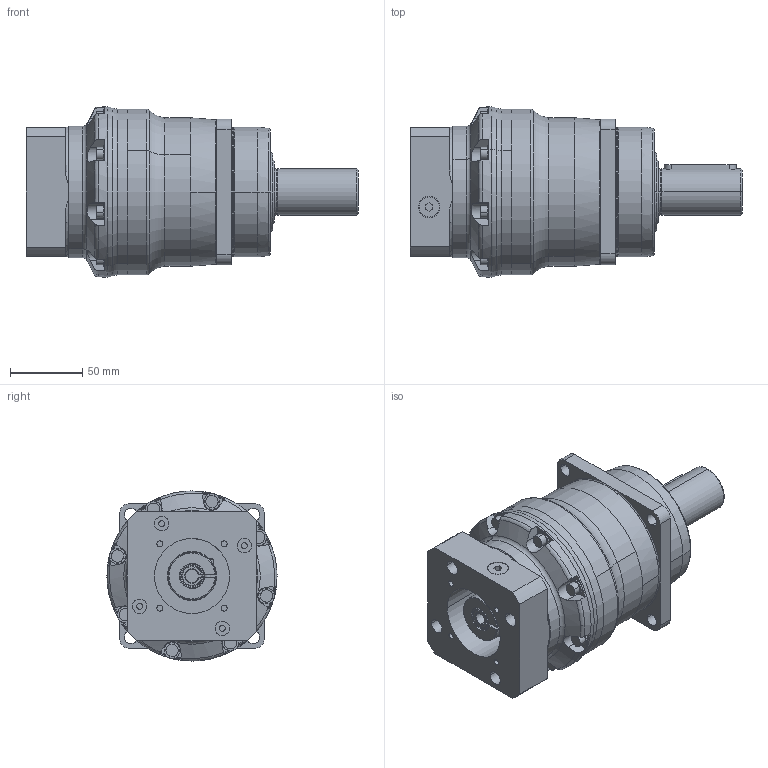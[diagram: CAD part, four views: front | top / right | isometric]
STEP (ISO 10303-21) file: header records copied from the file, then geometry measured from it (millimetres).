
FILE_DESCRIPTION(('STEP AP214'),'1');
FILE_NAME('20170313_133629054.stp','2017-03-13T12:36:30',(''),(''),'XStep 1.0','it-motive AG (itm_Acis_A0018_00R.dll)',' ');
FILE_SCHEMA(('automotive_design'));
Length unit declared in the file: millimetre
Products named in the file (7): Abtrieb_SP_m080; Antrieb_MF2_m080_C; 1; Abtriebswelle_SP_m080_1; ADP; vs_1_point; DSH
Bounding box: 230.3 x 118 x 118 mm (x, y, z)
Volume: 1409826.9 mm3; surface area: 146764.5 mm2
Topology: 7 solids, 7 shells, 398 faces, 974 edges, 619 vertices
Faces by surface type: cylinder 155, plane 123, torus 80, cone 36, bspline 4
Entity records: 17030 total; most frequent: CARTESIAN_POINT 3959, DIRECTION 2229, ORIENTED_EDGE 1940, EDGE_CURVE 970, AXIS2_PLACEMENT_3D 947, VERTEX_POINT 619, CIRCLE 546, EDGE_LOOP 457
